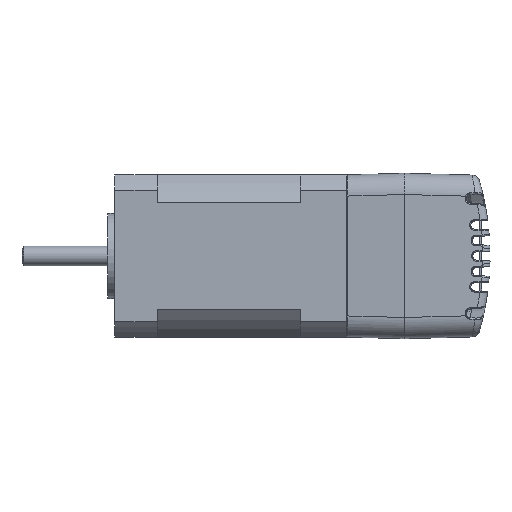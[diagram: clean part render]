
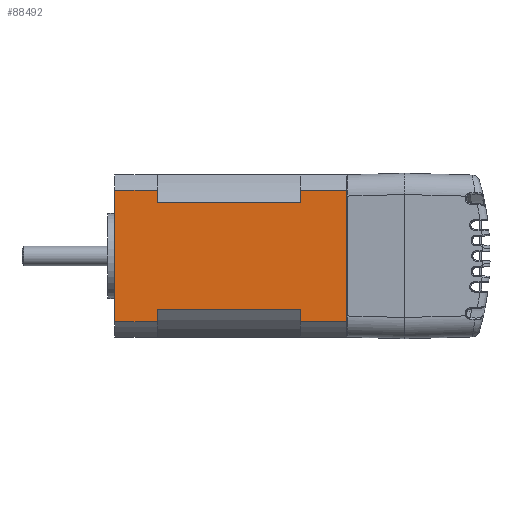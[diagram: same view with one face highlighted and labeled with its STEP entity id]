
A CAD part, front view. The second image highlights one B-rep face of the part: STEP entity #88492.
In plain terms, the highlighted planar face has unit normal (0, -1, 0).
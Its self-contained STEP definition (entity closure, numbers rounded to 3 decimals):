
#1196 = ORIENTED_EDGE ( 'NONE', *, *, #63061, .T. ) ;
#1271 = CARTESIAN_POINT ( 'NONE',  ( 4.029, 0., 60. ) ) ;
#1849 = EDGE_CURVE ( 'NONE', #87946, #4576, #19281, .T. ) ;
#2021 = LINE ( 'NONE', #85076, #79538 ) ;
#3669 = LINE ( 'NONE', #81773, #56487 ) ;
#3821 = CARTESIAN_POINT ( 'NONE',  ( 34.766, 0., 12. ) ) ;
#4576 = VERTEX_POINT ( 'NONE', #96233 ) ;
#5066 = CARTESIAN_POINT ( 'NONE',  ( 4.029, 0., 49. ) ) ;
#5246 = VECTOR ( 'NONE', #50381, 1000. ) ;
#5580 = DIRECTION ( 'NONE',  ( 0., 0., -1. ) ) ;
#8438 = CARTESIAN_POINT ( 'NONE',  ( 4.029, 0., 0. ) ) ;
#8659 = ORIENTED_EDGE ( 'NONE', *, *, #1849, .F. ) ;
#10684 = FACE_OUTER_BOUND ( 'NONE', #14164, .T. ) ;
#10764 = VECTOR ( 'NONE', #5580, 1000. ) ;
#12640 = CARTESIAN_POINT ( 'NONE',  ( 4.029, 0., 12. ) ) ;
#14164 = EDGE_LOOP ( 'NONE', ( #8659, #1196, #49956, #80677, #31527, #19481, #70666, #28556, #62902, #61435, #71640, #52831 ) ) ;
#15097 = CARTESIAN_POINT ( 'NONE',  ( 4.029, 0., 49. ) ) ;
#16640 = DIRECTION ( 'NONE',  ( 0., 0., -1. ) ) ;
#17580 = VECTOR ( 'NONE', #36138, 1000. ) ;
#19281 = LINE ( 'NONE', #92015, #36886 ) ;
#19481 = ORIENTED_EDGE ( 'NONE', *, *, #51906, .F. ) ;
#22107 = VERTEX_POINT ( 'NONE', #84004 ) ;
#26061 = DIRECTION ( 'NONE',  ( 0., 1., 0. ) ) ;
#26784 = DIRECTION ( 'NONE',  ( 0., 0., -1. ) ) ;
#27393 = VECTOR ( 'NONE', #26784, 1000. ) ;
#27581 = LINE ( 'NONE', #12640, #5246 ) ;
#27686 = EDGE_CURVE ( 'NONE', #71485, #28503, #28405, .T. ) ;
#27946 = VERTEX_POINT ( 'NONE', #15097 ) ;
#28405 = LINE ( 'NONE', #50538, #10764 ) ;
#28503 = VERTEX_POINT ( 'NONE', #35623 ) ;
#28556 = ORIENTED_EDGE ( 'NONE', *, *, #32359, .F. ) ;
#29786 = LINE ( 'NONE', #3821, #27393 ) ;
#31527 = ORIENTED_EDGE ( 'NONE', *, *, #36188, .F. ) ;
#32359 = EDGE_CURVE ( 'NONE', #68839, #36705, #2021, .T. ) ;
#32898 = DIRECTION ( 'NONE',  ( 0., 0., -1. ) ) ;
#35623 = CARTESIAN_POINT ( 'NONE',  ( 37.971, 0., 0. ) ) ;
#36138 = DIRECTION ( 'NONE',  ( 0., 0., -1. ) ) ;
#36188 = EDGE_CURVE ( 'NONE', #55080, #71485, #27581, .T. ) ;
#36705 = VERTEX_POINT ( 'NONE', #58219 ) ;
#36886 = VECTOR ( 'NONE', #39456, 1000. ) ;
#39456 = DIRECTION ( 'NONE',  ( 1., 0., 0. ) ) ;
#40265 = EDGE_CURVE ( 'NONE', #63608, #36705, #88623, .T. ) ;
#42314 = LINE ( 'NONE', #8438, #64635 ) ;
#44920 = CARTESIAN_POINT ( 'NONE',  ( 34.766, 0., 12. ) ) ;
#44971 = DIRECTION ( 'NONE',  ( 1., 0., 0. ) ) ;
#46434 = CARTESIAN_POINT ( 'NONE',  ( 4.029, 0., 60. ) ) ;
#48634 = VECTOR ( 'NONE', #96149, 1000. ) ;
#49571 = EDGE_CURVE ( 'NONE', #94699, #68839, #83006, .T. ) ;
#49956 = ORIENTED_EDGE ( 'NONE', *, *, #89138, .T. ) ;
#50381 = DIRECTION ( 'NONE',  ( 1., 0., 0. ) ) ;
#50538 = CARTESIAN_POINT ( 'NONE',  ( 37.971, 0., 60. ) ) ;
#51906 = EDGE_CURVE ( 'NONE', #63608, #55080, #29786, .T. ) ;
#52812 = LINE ( 'NONE', #5066, #92801 ) ;
#52831 = ORIENTED_EDGE ( 'NONE', *, *, #54197, .F. ) ;
#53805 = CARTESIAN_POINT ( 'NONE',  ( 37.971, 0., 60. ) ) ;
#54197 = EDGE_CURVE ( 'NONE', #4576, #22107, #3669, .T. ) ;
#54879 = DIRECTION ( 'NONE',  ( 0., 0., 1. ) ) ;
#55080 = VERTEX_POINT ( 'NONE', #44920 ) ;
#55872 = PLANE ( 'NONE',  #95188 ) ;
#56487 = VECTOR ( 'NONE', #54879, 1000. ) ;
#58219 = CARTESIAN_POINT ( 'NONE',  ( 37.971, 0., 49. ) ) ;
#60955 = DIRECTION ( 'NONE',  ( 1., 0., 0. ) ) ;
#61435 = ORIENTED_EDGE ( 'NONE', *, *, #90214, .T. ) ;
#61873 = VECTOR ( 'NONE', #16640, 1000. ) ;
#62902 = ORIENTED_EDGE ( 'NONE', *, *, #49571, .F. ) ;
#62998 = VECTOR ( 'NONE', #44971, 1000. ) ;
#63061 = EDGE_CURVE ( 'NONE', #87946, #95351, #81880, .T. ) ;
#63608 = VERTEX_POINT ( 'NONE', #75620 ) ;
#64635 = VECTOR ( 'NONE', #60955, 1000. ) ;
#67625 = CARTESIAN_POINT ( 'NONE',  ( 4.029, 0., 60. ) ) ;
#68839 = VERTEX_POINT ( 'NONE', #53805 ) ;
#70666 = ORIENTED_EDGE ( 'NONE', *, *, #40265, .T. ) ;
#70969 = CARTESIAN_POINT ( 'NONE',  ( 4.029, 0., 60. ) ) ;
#71042 = CARTESIAN_POINT ( 'NONE',  ( 37.971, 0., 12. ) ) ;
#71485 = VERTEX_POINT ( 'NONE', #71042 ) ;
#71640 = ORIENTED_EDGE ( 'NONE', *, *, #77232, .T. ) ;
#75620 = CARTESIAN_POINT ( 'NONE',  ( 34.766, 0., 49. ) ) ;
#77232 = EDGE_CURVE ( 'NONE', #27946, #22107, #52812, .T. ) ;
#78548 = DIRECTION ( 'NONE',  ( -1., 0., 0. ) ) ;
#79538 = VECTOR ( 'NONE', #32898, 1000. ) ;
#80677 = ORIENTED_EDGE ( 'NONE', *, *, #27686, .F. ) ;
#81131 = CARTESIAN_POINT ( 'NONE',  ( 4.029, 0., 60. ) ) ;
#81773 = CARTESIAN_POINT ( 'NONE',  ( 7.234, 0., 12. ) ) ;
#81880 = LINE ( 'NONE', #46434, #61873 ) ;
#83006 = LINE ( 'NONE', #67625, #62998 ) ;
#84004 = CARTESIAN_POINT ( 'NONE',  ( 7.234, 0., 49. ) ) ;
#85076 = CARTESIAN_POINT ( 'NONE',  ( 37.971, 0., 60. ) ) ;
#87149 = DIRECTION ( 'NONE',  ( 1., 0., 0. ) ) ;
#87946 = VERTEX_POINT ( 'NONE', #90405 ) ;
#88492 = ADVANCED_FACE ( 'NONE', ( #10684 ), #55872, .F. ) ;
#88560 = CARTESIAN_POINT ( 'NONE',  ( 4.029, 0., 49. ) ) ;
#88623 = LINE ( 'NONE', #88560, #48634 ) ;
#89138 = EDGE_CURVE ( 'NONE', #95351, #28503, #42314, .T. ) ;
#90214 = EDGE_CURVE ( 'NONE', #94699, #27946, #95147, .T. ) ;
#90405 = CARTESIAN_POINT ( 'NONE',  ( 4.029, 0., 12. ) ) ;
#92015 = CARTESIAN_POINT ( 'NONE',  ( 4.029, 0., 12. ) ) ;
#92801 = VECTOR ( 'NONE', #87149, 1000. ) ;
#94699 = VERTEX_POINT ( 'NONE', #1271 ) ;
#95023 = CARTESIAN_POINT ( 'NONE',  ( 4.029, 0., 0. ) ) ;
#95147 = LINE ( 'NONE', #81131, #17580 ) ;
#95188 = AXIS2_PLACEMENT_3D ( 'NONE', #70969, #26061, #78548 ) ;
#95351 = VERTEX_POINT ( 'NONE', #95023 ) ;
#96149 = DIRECTION ( 'NONE',  ( 1., 0., 0. ) ) ;
#96233 = CARTESIAN_POINT ( 'NONE',  ( 7.234, 0., 12. ) ) ;
